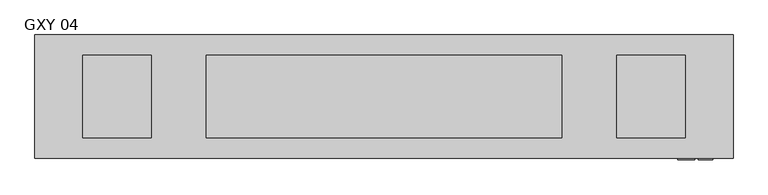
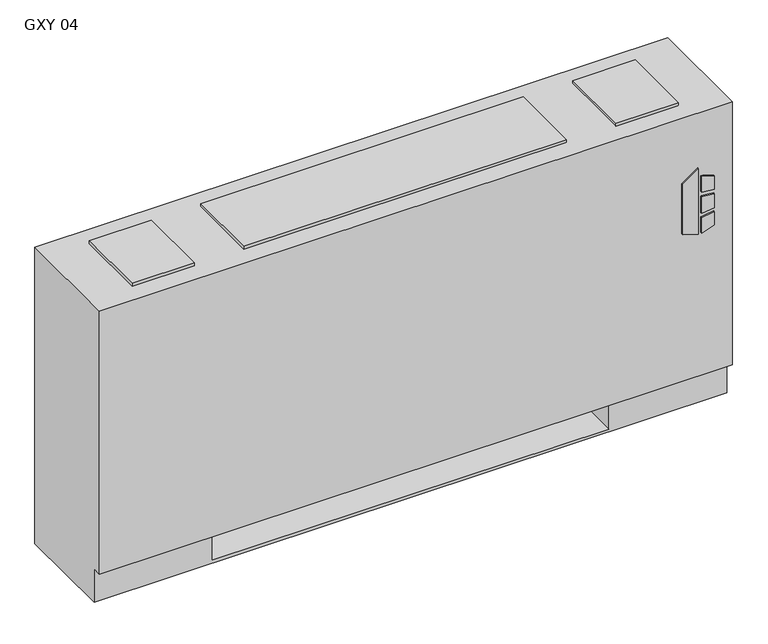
"""IFC4 building model written with IfcOpenShell, lengths in millimetres: proxy geometry, Vertical_Fan_Coil_Unit_-_GXY_-_IEC_-_2-Pipe_TS-FR_LH_2022 : GXY 04."""

from ifc_helpers import new_model, si_unit, point, frame, frame_2d, origin, place, context, project, spatial, polyline, circle_curve, trimmed, segment, composite_curve, outline, extrude, source, transform, mapped, element, save
from ifc_brep_helpers import plane_surface, revolved_surface, advanced_brep


def gxy_04_f155bc42(model_context):
    return source(origin(), model_context, "Body", "SolidModel", [
        extrude(outline(polyline([(391.6086829, 696.9868862), (381.6606126, 729.1602728), (523.831537, 729.1602728), (500.8095309, 696.9868862), (391.6086829, 696.9868862)])), frame((0.0, 12.7, 0.0), z_axis=(0.0, 1.0, 0.0), x_axis=(0.0, 0.0, 1.0)), (0.0, 0.0, 1.0), 3.175),
        extrude(outline(polyline([(470.6079683, 735.9186058), (467.4055757, 762.0), (496.6344168, 762.0), (504.6988318, 735.9186058), (470.6079683, 735.9186058)])), frame((0.0, 12.7, 0.0), z_axis=(0.0, 1.0, 0.0), x_axis=(0.0, 0.0, 1.0)), (0.0, 0.0, 1.0), 3.175),
        extrude(outline(polyline([(418.7444414, 762.0), (415.0789404, 735.9186058), (381.6606126, 735.9186058), (390.2948498, 762.0), (418.7444414, 762.0)])), frame((0.0, 12.7, 0.0), z_axis=(0.0, 1.0, 0.0), x_axis=(0.0, 0.0, 1.0)), (0.0, 0.0, 1.0), 3.175),
        extrude(outline(polyline([(458.0596028, 762.0), (460.3414292, 735.9186058), (424.4038806, 735.9186058), (427.1451456, 762.0), (458.0596028, 762.0)])), frame((0.0, 12.7, 0.0), z_axis=(0.0, 1.0, 0.0), x_axis=(0.0, 0.0, 1.0)), (0.0, 0.0, 1.0), 3.175),
        extrude(outline(polyline([(558.8, 81.534), (558.8, 223.266), (679.45, 223.266), (679.45, 81.534), (558.8, 81.534)])), frame((0.0, 0.0, 327.025), z_axis=(0.0, 0.0, 1.0), x_axis=(1.0, 0.0, 0.0)), (0.0, 0.0, 1.0), 260.35),
        extrude(outline(polyline([(-279.4, 206.375), (-279.4, 53.975), (-406.4, 53.975), (-406.4, 206.375), (-279.4, 206.375)])), frame((0.0, 0.0, 641.35), z_axis=(0.0, 0.0, 1.0), x_axis=(1.0, 0.0, 0.0)), (0.0, 0.0, 1.0), 6.35),
        extrude(outline(polyline([(711.2, 206.375), (711.2, 53.975), (584.2, 53.975), (584.2, 206.375), (711.2, 206.375)])), frame((0.0, 0.0, 641.35), z_axis=(0.0, 0.0, 1.0), x_axis=(1.0, 0.0, 0.0)), (0.0, 0.0, 1.0), 6.35),
        extrude(outline(composite_curve([segment(trimmed(circle_curve(frame_2d((78.9432, 398.5514)), 7.9375), [point((78.9432, 406.4889))], [point((78.9432, 390.6139))], False, "CARTESIAN"), True, "CONTINUOUS"), segment(trimmed(circle_curve(frame_2d((78.9432, 398.5514)), 7.9375), [point((78.9432, 390.6139))], [point((78.9432, 406.4889))], False, "CARTESIAN"), True, "CONTINUOUS")], self_intersect=False)), frame((-304.8, 0.0, 0.0), z_axis=(1.0, 0.0, 0.0), x_axis=(0.0, 1.0, 0.0)), (0.0, 0.0, 1.0), 50.8),
        extrude(outline(composite_curve([segment(trimmed(circle_curve(frame_2d((155.9052, 537.3878)), 7.9375), [point((155.9052, 545.3253))], [point((155.9052, 529.4503))], False, "CARTESIAN"), True, "CONTINUOUS"), segment(trimmed(circle_curve(frame_2d((155.9052, 537.3878)), 7.9375), [point((155.9052, 529.4503))], [point((155.9052, 545.3253))], False, "CARTESIAN"), True, "CONTINUOUS")], self_intersect=False)), frame((-304.8, 0.0, 0.0), z_axis=(1.0, 0.0, 0.0), x_axis=(0.0, 1.0, 0.0)), (0.0, 0.0, 1.0), 50.8),
        advanced_brep(
        [(800.1, 244.475, 641.35), (-495.3, 244.475, 641.35), (-495.3, 15.875, 641.35), (800.1, 15.875, 641.35), (-495.3, 244.475, 0.0), (800.1, 244.475, 0.0), (800.1, 34.925, 0.0), (-495.3, 34.925, 0.0), (558.8, 244.475, 73.025), (787.4, 244.475, 73.025), (787.4, 244.475, 628.65), (558.8, 244.475, 628.65), (558.8, 244.475, 418.0400565), (587.375, 244.475, 418.0400565), (587.375, 244.475, 388.4099435), (558.8, 244.475, 388.4099435), (558.8, 244.475, 290.5125), (587.375, 244.475, 290.5125), (587.375, 244.475, 261.9375), (558.8, 244.475, 261.9375), (558.8, 244.475, 119.0625), (587.375, 244.475, 119.0625), (587.375, 244.475, 90.4875), (558.8, 244.475, 90.4875), (-254.0, 244.475, 628.65), (-482.6, 244.475, 628.65), (-482.6, 244.475, 73.025), (-254.0, 244.475, 73.025), (-254.0, 244.475, 90.4875), (-282.575, 244.475, 90.4875), (-282.575, 244.475, 119.0625), (-254.0, 244.475, 119.0625), (-254.0, 244.475, 261.9375), (-282.575, 244.475, 261.9375), (-282.575, 244.475, 290.5125), (-254.0, 244.475, 290.5125), (-254.0, 244.475, 388.4099435), (-282.575, 244.475, 388.4099435), (-282.575, 244.475, 418.0400565), (-254.0, 244.475, 418.0400565), (577.0626, 244.475, 104.775), (565.9374, 244.475, 104.775), (577.0626, 244.475, 403.225), (565.9374, 244.475, 403.225), (577.0626, 244.475, 276.225), (565.9374, 244.475, 276.225), (-261.1374, 244.475, 104.775), (-272.2626, 244.475, 104.775), (-261.1374, 244.475, 276.225), (-272.2626, 244.475, 276.225), (-261.1374, 244.475, 403.225), (-272.2626, 244.475, 403.225), (-495.3, 34.925, 73.025), (-495.3, 15.875, 73.025), (800.1, 15.875, 73.025), (800.1, 34.925, 73.025), (-254.0, 34.925, 73.025), (-254.0, 219.075, 73.025), (558.8, 219.075, 73.025), (558.8, 34.925, 73.025), (558.8, 34.925, 6.35), (-254.0, 34.925, 6.35), (558.8, 41.275, 628.65), (787.4, 41.275, 628.65), (787.4, 41.275, 73.025), (558.8, 41.275, 73.025), (-254.0, 41.275, 628.65), (-254.0, 41.275, 73.025), (-482.6, 41.275, 73.025), (-482.6, 41.275, 628.65), (558.8, 219.075, 73.025), (558.8, 238.125, 90.4875), (558.8, 238.125, 119.0625), (558.8, 238.125, 261.9375), (558.8, 238.125, 290.5125), (558.8, 238.125, 388.4099435), (558.8, 238.125, 418.0400565), (-254.0, 219.075, 73.025), (-254.0, 238.125, 418.0400565), (-254.0, 238.125, 388.4099435), (-254.0, 238.125, 290.5125), (-254.0, 238.125, 261.9375), (-254.0, 238.125, 119.0625), (-254.0, 238.125, 90.4875), (-254.0, 219.075, 6.35), (558.8, 219.075, 6.35), (587.375, 238.125, 90.4875), (587.375, 238.125, 119.0625), (565.9374, 238.125, 104.775), (577.0626, 238.125, 104.775), (587.375, 238.125, 261.9375), (587.375, 238.125, 290.5125), (565.9374, 238.125, 276.225), (577.0626, 238.125, 276.225), (587.375, 238.125, 388.4099435), (587.375, 238.125, 418.0400565), (565.9374, 238.125, 403.225), (577.0626, 238.125, 403.225), (-282.575, 238.125, 119.0625), (-282.575, 238.125, 90.4875), (-272.2626, 238.125, 104.775), (-261.1374, 238.125, 104.775), (-282.575, 238.125, 290.5125), (-282.575, 238.125, 261.9375), (-272.2626, 238.125, 276.225), (-261.1374, 238.125, 276.225), (-282.575, 238.125, 418.0400565), (-282.575, 238.125, 388.4099435), (-272.2626, 238.125, 403.225), (-261.1374, 238.125, 403.225)],
        [
            (0, 1),
            (1, 2),
            (2, 3),
            (3, 0),
            (4, 5),
            (5, 6),
            (6, 7),
            (7, 4),
            (0, 5),
            (4, 1),
            (8, 9),
            (9, 10),
            (10, 11),
            (11, 12),
            (12, 13),
            (13, 14),
            (14, 15),
            (15, 16),
            (16, 17),
            (17, 18),
            (18, 19),
            (19, 20),
            (20, 21),
            (21, 22),
            (22, 23),
            (23, 8),
            (24, 25),
            (25, 26),
            (26, 27),
            (27, 28),
            (28, 29),
            (29, 30),
            (30, 31),
            (31, 32),
            (32, 33),
            (33, 34),
            (34, 35),
            (35, 36),
            (36, 37),
            (37, 38),
            (38, 39),
            (39, 24),
            (40, 41, circle_curve(frame((571.5, 244.475, 104.775), z_axis=(0.0, -1.0, 0.0), x_axis=(-1.0, 0.0, 0.0)), 5.5626)),
            (41, 40, circle_curve(frame((571.5, 244.475, 104.775), z_axis=(0.0, -1.0, 0.0), x_axis=(-1.0, 0.0, 0.0)), 5.5626)),
            (42, 43, circle_curve(frame((571.5, 244.475, 403.225), z_axis=(0.0, -1.0, 0.0), x_axis=(-1.0, 0.0, 0.0)), 5.5626)),
            (43, 42, circle_curve(frame((571.5, 244.475, 403.225), z_axis=(0.0, -1.0, 0.0), x_axis=(-1.0, 0.0, 0.0)), 5.5626)),
            (44, 45, circle_curve(frame((571.5, 244.475, 276.225), z_axis=(0.0, -1.0, 0.0), x_axis=(-1.0, 0.0, 0.0)), 5.5626)),
            (45, 44, circle_curve(frame((571.5, 244.475, 276.225), z_axis=(0.0, -1.0, 0.0), x_axis=(-1.0, 0.0, 0.0)), 5.5626)),
            (46, 47, circle_curve(frame((-266.7, 244.475, 104.775), z_axis=(0.0, -1.0, 0.0), x_axis=(-1.0, 0.0, 0.0)), 5.5626)),
            (47, 46, circle_curve(frame((-266.7, 244.475, 104.775), z_axis=(0.0, -1.0, 0.0), x_axis=(-1.0, 0.0, 0.0)), 5.5626)),
            (48, 49, circle_curve(frame((-266.7, 244.475, 276.225), z_axis=(0.0, -1.0, 0.0), x_axis=(-1.0, 0.0, 0.0)), 5.5626)),
            (49, 48, circle_curve(frame((-266.7, 244.475, 276.225), z_axis=(0.0, -1.0, 0.0), x_axis=(-1.0, 0.0, 0.0)), 5.5626)),
            (50, 51, circle_curve(frame((-266.7, 244.475, 403.225), z_axis=(0.0, -1.0, 0.0), x_axis=(-1.0, 0.0, 0.0)), 5.5626)),
            (51, 50, circle_curve(frame((-266.7, 244.475, 403.225), z_axis=(0.0, -1.0, 0.0), x_axis=(-1.0, 0.0, 0.0)), 5.5626)),
            (7, 52),
            (52, 53),
            (53, 2),
            (53, 54),
            (54, 3),
            (54, 55),
            (55, 6),
            (52, 56),
            (56, 57),
            (57, 58),
            (58, 59),
            (59, 55),
            (59, 60),
            (60, 61),
            (61, 56),
            (62, 63),
            (63, 64),
            (64, 65),
            (65, 62),
            (66, 67),
            (67, 68),
            (68, 69),
            (69, 66),
            (65, 70),
            (70, 8),
            (23, 71),
            (71, 72),
            (72, 20),
            (19, 73),
            (73, 74),
            (74, 16),
            (15, 75),
            (75, 76),
            (76, 12),
            (11, 62),
            (64, 9),
            (63, 10),
            (69, 25),
            (24, 66),
            (68, 26),
            (67, 77),
            (77, 27),
            (39, 78),
            (78, 79),
            (79, 36),
            (35, 80),
            (80, 81),
            (81, 32),
            (31, 82),
            (82, 83),
            (83, 28),
            (57, 84),
            (84, 85),
            (85, 58),
            (85, 60),
            (84, 61),
            (71, 86),
            (86, 87),
            (87, 72),
            (88, 89, circle_curve(frame((571.5, 238.125, 104.775), z_axis=(0.0, 1.0, 0.0), x_axis=(-1.0, 0.0, 0.0)), 5.5626)),
            (89, 88, circle_curve(frame((571.5, 238.125, 104.775), z_axis=(0.0, 1.0, 0.0), x_axis=(-1.0, 0.0, 0.0)), 5.5626)),
            (73, 90),
            (90, 91),
            (91, 74),
            (92, 93, circle_curve(frame((571.5, 238.125, 276.225), z_axis=(0.0, 1.0, 0.0), x_axis=(-1.0, 0.0, 0.0)), 5.5626)),
            (93, 92, circle_curve(frame((571.5, 238.125, 276.225), z_axis=(0.0, 1.0, 0.0), x_axis=(-1.0, 0.0, 0.0)), 5.5626)),
            (75, 94),
            (94, 95),
            (95, 76),
            (96, 97, circle_curve(frame((571.5, 238.125, 403.225), z_axis=(0.0, 1.0, 0.0), x_axis=(-1.0, 0.0, 0.0)), 5.5626)),
            (97, 96, circle_curve(frame((571.5, 238.125, 403.225), z_axis=(0.0, 1.0, 0.0), x_axis=(-1.0, 0.0, 0.0)), 5.5626)),
            (98, 99),
            (99, 83),
            (82, 98),
            (100, 101, circle_curve(frame((-266.7, 238.125, 104.775), z_axis=(0.0, 1.0, 0.0), x_axis=(-1.0, 0.0, 0.0)), 5.5626)),
            (101, 100, circle_curve(frame((-266.7, 238.125, 104.775), z_axis=(0.0, 1.0, 0.0), x_axis=(-1.0, 0.0, 0.0)), 5.5626)),
            (102, 103),
            (103, 81),
            (80, 102),
            (104, 105, circle_curve(frame((-266.7, 238.125, 276.225), z_axis=(0.0, 1.0, 0.0), x_axis=(-1.0, 0.0, 0.0)), 5.5626)),
            (105, 104, circle_curve(frame((-266.7, 238.125, 276.225), z_axis=(0.0, 1.0, 0.0), x_axis=(-1.0, 0.0, 0.0)), 5.5626)),
            (106, 107),
            (107, 79),
            (78, 106),
            (108, 109, circle_curve(frame((-266.7, 238.125, 403.225), z_axis=(0.0, 1.0, 0.0), x_axis=(-1.0, 0.0, 0.0)), 5.5626)),
            (109, 108, circle_curve(frame((-266.7, 238.125, 403.225), z_axis=(0.0, 1.0, 0.0), x_axis=(-1.0, 0.0, 0.0)), 5.5626)),
            (87, 21),
            (86, 22),
            (91, 17),
            (90, 18),
            (95, 13),
            (94, 14),
            (30, 98),
            (99, 29),
            (34, 102),
            (103, 33),
            (38, 106),
            (107, 37),
            (88, 41),
            (40, 89),
            (96, 43),
            (42, 97),
            (92, 45),
            (44, 93),
            (100, 47),
            (46, 101),
            (104, 49),
            (48, 105),
            (108, 51),
            (50, 109),
        ],
        [
            plane_surface(frame((-495.3, 244.475, 641.35), z_axis=(0.0, 0.0, 1.0), x_axis=(-1.0, 0.0, 0.0))),
            plane_surface(frame((-495.3, 244.475, 0.0), z_axis=(0.0, 0.0, -1.0), x_axis=(1.0, 0.0, 0.0))),
            plane_surface(frame((800.1, 244.475, 641.35), z_axis=(0.0, 1.0, 0.0), x_axis=(0.0, 0.0, -1.0))),
            plane_surface(frame((-495.3, 244.475, 641.35), z_axis=(-1.0, 0.0, 0.0), x_axis=(0.0, 0.0, -1.0))),
            plane_surface(frame((-495.3, 15.875, 641.35), z_axis=(0.0, -1.0, 0.0), x_axis=(0.0, 0.0, -1.0))),
            plane_surface(frame((800.1, 15.875, 641.35), z_axis=(1.0, 0.0, 0.0), x_axis=(0.0, 0.0, -1.0))),
            plane_surface(frame((-495.3, 15.875, 73.025), z_axis=(0.0, 0.0, -1.0), x_axis=(1.0, 0.0, 0.0))),
            plane_surface(frame((-495.3, 34.925, 73.025), z_axis=(0.0, -1.0, 0.0), x_axis=(1.0, 0.0, 0.0))),
            plane_surface(frame((558.8, 41.275, 628.65), z_axis=(0.0, 1.0, 0.0), x_axis=(0.0, 0.0, -1.0))),
            plane_surface(frame((558.8, 41.275, 628.65), z_axis=(1.0, 0.0, 0.0), x_axis=(0.0, 1.0, 0.0))),
            plane_surface(frame((558.8, 41.275, 73.025), z_axis=(0.0, 0.0, 1.0), x_axis=(0.0, 1.0, 0.0))),
            plane_surface(frame((787.4, 41.275, 73.025), z_axis=(-1.0, 0.0, 0.0), x_axis=(0.0, 1.0, 0.0))),
            plane_surface(frame((787.4, 41.275, 628.65), z_axis=(0.0, 0.0, -1.0), x_axis=(0.0, 1.0, 0.0))),
            plane_surface(frame((-254.0, 41.275, 628.65), z_axis=(0.0, 0.0, -1.0), x_axis=(0.0, 1.0, 0.0))),
            plane_surface(frame((-482.6, 41.275, 628.65), z_axis=(1.0, 0.0, 0.0), x_axis=(0.0, 1.0, 0.0))),
            plane_surface(frame((-482.6, 41.275, 73.025), z_axis=(0.0, 0.0, 1.0), x_axis=(0.0, 1.0, 0.0))),
            plane_surface(frame((-254.0, 41.275, 73.025), z_axis=(-1.0, 0.0, 0.0), x_axis=(0.0, 1.0, 0.0))),
            plane_surface(frame((558.8, 219.075, 73.025), z_axis=(0.0, -1.0, 0.0), x_axis=(0.0, 0.0, -1.0))),
            plane_surface(frame((558.8, 219.075, 73.025), z_axis=(-1.0, 0.0, 0.0), x_axis=(0.0, -1.0, 0.0))),
            plane_surface(frame((558.8, 219.075, 6.35), z_axis=(0.0, 0.0, 1.0), x_axis=(0.0, -1.0, 0.0))),
            plane_surface(frame((-254.0, 219.075, 6.35), z_axis=(1.0, 0.0, 0.0), x_axis=(0.0, -1.0, 0.0))),
            plane_surface(frame((587.375, 238.125, 119.0625), z_axis=(0.0, -1.0, 0.0), x_axis=(-1.0, 0.0, 0.0))),
            plane_surface(frame((558.8, 244.475, 119.0625), z_axis=(0.0, 0.0, 1.0), x_axis=(0.0, -1.0, 0.0))),
            plane_surface(frame((587.375, 244.475, 119.0625), z_axis=(1.0, 0.0, 0.0), x_axis=(0.0, -1.0, 0.0))),
            plane_surface(frame((587.375, 244.475, 90.4875), z_axis=(0.0, 0.0, -1.0), x_axis=(0.0, -1.0, 0.0))),
            plane_surface(frame((558.8, 244.475, 290.5125), z_axis=(0.0, 0.0, 1.0), x_axis=(0.0, -1.0, 0.0))),
            plane_surface(frame((587.375, 244.475, 290.5125), z_axis=(1.0, 0.0, 0.0), x_axis=(0.0, -1.0, 0.0))),
            plane_surface(frame((587.375, 244.475, 261.9375), z_axis=(0.0, 0.0, -1.0), x_axis=(0.0, -1.0, 0.0))),
            plane_surface(frame((558.8, 244.475, 418.0400565), z_axis=(0.0, 0.0, 1.0), x_axis=(0.0, -1.0, 0.0))),
            plane_surface(frame((587.375, 244.475, 418.0400565), z_axis=(1.0, 0.0, 0.0), x_axis=(0.0, -1.0, 0.0))),
            plane_surface(frame((587.375, 244.475, 388.4099435), z_axis=(0.0, 0.0, -1.0), x_axis=(0.0, -1.0, 0.0))),
            plane_surface(frame((-282.575, 244.475, 119.0625), z_axis=(0.0, 0.0, 1.0), x_axis=(0.0, -1.0, 0.0))),
            plane_surface(frame((-254.0, 244.475, 90.4875), z_axis=(0.0, 0.0, -1.0), x_axis=(0.0, -1.0, 0.0))),
            plane_surface(frame((-282.575, 244.475, 90.4875), z_axis=(-1.0, 0.0, 0.0), x_axis=(0.0, -1.0, 0.0))),
            plane_surface(frame((-282.575, 244.475, 290.5125), z_axis=(0.0, 0.0, 1.0), x_axis=(0.0, -1.0, 0.0))),
            plane_surface(frame((-254.0, 244.475, 261.9375), z_axis=(0.0, 0.0, -1.0), x_axis=(0.0, -1.0, 0.0))),
            plane_surface(frame((-282.575, 244.475, 261.9375), z_axis=(-1.0, 0.0, 0.0), x_axis=(0.0, -1.0, 0.0))),
            plane_surface(frame((-282.575, 244.475, 418.0400565), z_axis=(0.0, 0.0, 1.0), x_axis=(0.0, -1.0, 0.0))),
            plane_surface(frame((-254.0, 244.475, 388.4099435), z_axis=(0.0, 0.0, -1.0), x_axis=(0.0, -1.0, 0.0))),
            plane_surface(frame((-282.575, 244.475, 388.4099435), z_axis=(-1.0, 0.0, 0.0), x_axis=(0.0, -1.0, 0.0))),
            revolved_surface(polyline([(565.9374, 238.125, 104.775), (565.9374, 244.475, 104.775)]), (571.5, 244.475, 104.775), (0.0, -1.0, 0.0)),
            revolved_surface(polyline([(565.9374, 238.125, 403.225), (565.9374, 244.475, 403.225)]), (571.5, 244.475, 403.225), (0.0, -1.0, 0.0)),
            revolved_surface(polyline([(565.9374, 238.125, 276.225), (565.9374, 244.475, 276.225)]), (571.5, 244.475, 276.225), (0.0, -1.0, 0.0)),
            revolved_surface(polyline([(-272.26259999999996, 238.125, 104.775), (-272.26259999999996, 244.475, 104.775)]), (-266.7, 244.475, 104.775), (0.0, -1.0, 0.0)),
            revolved_surface(polyline([(-272.26259999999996, 238.125, 276.225), (-272.26259999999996, 244.475, 276.225)]), (-266.7, 244.475, 276.225), (0.0, -1.0, 0.0)),
            revolved_surface(polyline([(-272.26259999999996, 238.125, 403.225), (-272.26259999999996, 244.475, 403.225)]), (-266.7, 244.475, 403.225), (0.0, -1.0, 0.0)),
        ],
        [
            (0, [[1, 2, 3, 4]]),
            (1, [[5, 6, 7, 8]]),
            (2, [[-1, 9, -5, 10], [11, 12, 13, 14, 15, 16, 17, 18, 19, 20, 21, 22, 23, 24, 25, 26], [27, 28, 29, 30, 31, 32, 33, 34, 35, 36, 37, 38, 39, 40, 41, 42], [43, 44], [45, 46], [47, 48], [49, 50], [51, 52], [53, 54]]),
            (3, [[-2, -10, -8, 55, 56, 57]]),
            (4, [[-3, -57, 58, 59]]),
            (5, [[-4, -59, 60, 61, -6, -9]]),
            (6, [[-56, 62, 63, 64, 65, 66, -60, -58]]),
            (7, [[-7, -61, -66, 67, 68, 69, -62, -55]]),
            (8, [[70, 71, 72, 73]]),
            (8, [[74, 75, 76, 77]]),
            (9, [[-73, 78, 79, -26, 80, 81, 82, -22, 83, 84, 85, -18, 86, 87, 88, -14, 89]]),
            (10, [[-72, 90, -11, -79, -78]]),
            (11, [[-71, 91, -12, -90]]),
            (12, [[-70, -89, -13, -91]]),
            (13, [[-77, 92, -27, 93]]),
            (14, [[-76, 94, -28, -92]]),
            (15, [[-75, 95, 96, -29, -94]]),
            (16, [[-74, -93, -42, 97, 98, 99, -38, 100, 101, 102, -34, 103, 104, 105, -30, -96, -95]]),
            (17, [[-64, 106, 107, 108]]),
            (18, [[-108, 109, -67, -65]]),
            (19, [[-107, 110, -68, -109]]),
            (20, [[-106, -63, -69, -110]]),
            (21, [[111, 112, 113, -81], [114, 115]]),
            (21, [[116, 117, 118, -84], [119, 120]]),
            (21, [[121, 122, 123, -87], [124, 125]]),
            (21, [[126, 127, -104, 128], [129, 130]]),
            (21, [[131, 132, -101, 133], [134, 135]]),
            (21, [[136, 137, -98, 138], [139, 140]]),
            (22, [[-113, 141, -23, -82]]),
            (23, [[-112, 142, -24, -141]]),
            (24, [[-111, -80, -25, -142]]),
            (25, [[-118, 143, -19, -85]]),
            (26, [[-117, 144, -20, -143]]),
            (27, [[-116, -83, -21, -144]]),
            (28, [[-123, 145, -15, -88]]),
            (29, [[-122, 146, -16, -145]]),
            (30, [[-121, -86, -17, -146]]),
            (31, [[-128, -103, -33, 147]]),
            (32, [[-127, 148, -31, -105]]),
            (33, [[-126, -147, -32, -148]]),
            (34, [[-133, -100, -37, 149]]),
            (35, [[-132, 150, -35, -102]]),
            (36, [[-131, -149, -36, -150]]),
            (37, [[-138, -97, -41, 151]]),
            (38, [[-137, 152, -39, -99]]),
            (39, [[-136, -151, -40, -152]]),
            (40, [[153, -43, 154, -114]]),
            (40, [[-153, -115, -154, -44]]),
            (41, [[155, -45, 156, -124]]),
            (41, [[-155, -125, -156, -46]]),
            (42, [[157, -47, 158, -119]]),
            (42, [[-157, -120, -158, -48]]),
            (43, [[159, -49, 160, -129]]),
            (43, [[-159, -130, -160, -50]]),
            (44, [[161, -51, 162, -134]]),
            (44, [[-161, -135, -162, -52]]),
            (45, [[163, -53, 164, -139]]),
            (45, [[-163, -140, -164, -54]]),
        ],
    ),
        extrude(outline(polyline([(482.6, 206.375), (482.6, 53.975), (-177.8, 53.975), (-177.8, 206.375), (482.6, 206.375)])), frame((0.0, 0.0, 641.35), z_axis=(0.0, 0.0, 1.0), x_axis=(1.0, 0.0, 0.0)), (0.0, 0.0, 1.0), 6.35),
    ])


if __name__ == "__main__":
    model = new_model("IFC4")
    model_context = context("Model", 3, world=origin())
    ifc_project = project(units=[si_unit("LENGTHUNIT", "METRE", prefix="MILLI")], contexts=[model_context])
    site = spatial("IfcSite", under=ifc_project)
    building = spatial("IfcBuilding", under=site)
    placement = place(None, origin())
    gxy_04_shape = gxy_04_f155bc42(model_context)
    element("IfcBuildingElementProxy", 1, Name="Vertical_Fan_Coil_Unit_-_GXY_-_IEC_-_2-Pipe_TS-FR_LH_2022 : GXY 04", ObjectType="Vertical_Fan_Coil_Unit_-_GXY_-_IEC_-_2-Pipe_TS-FR_LH_2022 : GXY 04", at=placement, inside=building, context=model_context, shape_type="MappedRepresentation", body=[
        mapped(gxy_04_shape, transform((0.0, 0.0, 0.0), x_axis=(1.0, 0.0, 0.0), y_axis=(0.0, 1.0, 0.0), z_axis=(0.0, 0.0, 1.0))),
    ])
    save(model, "model.ifc")
